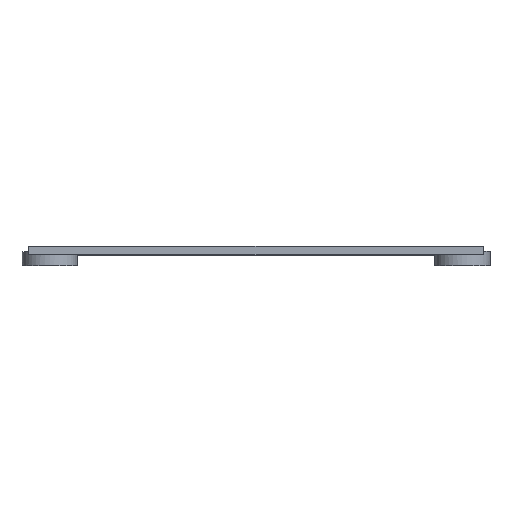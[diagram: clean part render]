
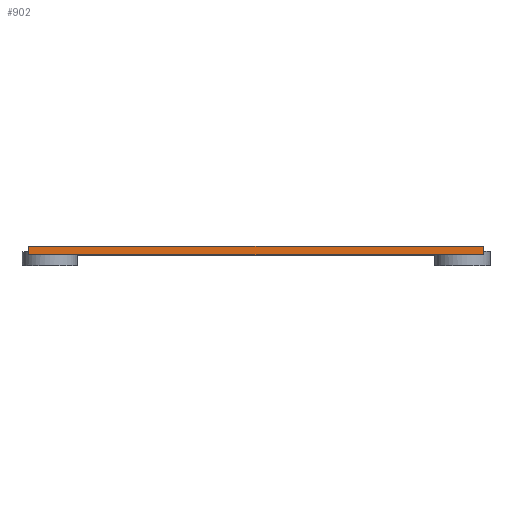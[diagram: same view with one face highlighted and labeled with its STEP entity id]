
A CAD part, top view. The second image highlights one B-rep face of the part: STEP entity #902.
In plain terms, the highlighted planar face has unit normal (0, 0, 1).
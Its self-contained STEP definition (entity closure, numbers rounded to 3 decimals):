
#32 = PLANE('',#33);
#33 = AXIS2_PLACEMENT_3D('',#34,#35,#36);
#34 = CARTESIAN_POINT('',(-66.,78.,592.));
#35 = DIRECTION('',(1.,0.,-0.));
#36 = DIRECTION('',(0.,0.,1.));
#44 = PLANE('',#45);
#45 = AXIS2_PLACEMENT_3D('',#46,#47,#48);
#46 = CARTESIAN_POINT('',(-66.,78.,592.));
#47 = DIRECTION('',(-0.,1.,0.));
#48 = DIRECTION('',(0.,0.,1.));
#85 = VERTEX_POINT('',#86);
#86 = CARTESIAN_POINT('',(-66.,80.5,678.));
#99 = PLANE('',#100);
#100 = AXIS2_PLACEMENT_3D('',#101,#102,#103);
#101 = CARTESIAN_POINT('',(-400.,80.5,0.));
#102 = DIRECTION('',(-0.,1.,0.));
#103 = DIRECTION('',(0.,0.,1.));
#111 = EDGE_CURVE('',#112,#85,#114,.T.);
#112 = VERTEX_POINT('',#113);
#113 = CARTESIAN_POINT('',(-66.,78.,678.));
#114 = SURFACE_CURVE('',#115,(#119,#126),.PCURVE_S1.);
#115 = LINE('',#116,#117);
#116 = CARTESIAN_POINT('',(-66.,78.,678.));
#117 = VECTOR('',#118,1.);
#118 = DIRECTION('',(-0.,1.,0.));
#119 = PCURVE('',#32,#120);
#120 = DEFINITIONAL_REPRESENTATION('',(#121),#125);
#121 = LINE('',#122,#123);
#122 = CARTESIAN_POINT('',(86.,0.));
#123 = VECTOR('',#124,1.);
#124 = DIRECTION('',(0.,-1.));
#125 = ( GEOMETRIC_REPRESENTATION_CONTEXT(2) 
PARAMETRIC_REPRESENTATION_CONTEXT() REPRESENTATION_CONTEXT('2D SPACE',''
  ) );
#126 = PCURVE('',#127,#132);
#127 = PLANE('',#128);
#128 = AXIS2_PLACEMENT_3D('',#129,#130,#131);
#129 = CARTESIAN_POINT('',(-66.,78.,678.));
#130 = DIRECTION('',(0.,0.,1.));
#131 = DIRECTION('',(1.,0.,-0.));
#132 = DEFINITIONAL_REPRESENTATION('',(#133),#137);
#133 = LINE('',#134,#135);
#134 = CARTESIAN_POINT('',(0.,0.));
#135 = VECTOR('',#136,1.);
#136 = DIRECTION('',(0.,1.));
#137 = ( GEOMETRIC_REPRESENTATION_CONTEXT(2) 
PARAMETRIC_REPRESENTATION_CONTEXT() REPRESENTATION_CONTEXT('2D SPACE',''
  ) );
#332 = EDGE_CURVE('',#112,#333,#335,.T.);
#333 = VERTEX_POINT('',#334);
#334 = CARTESIAN_POINT('',(66.,78.,678.));
#335 = SURFACE_CURVE('',#336,(#340,#347),.PCURVE_S1.);
#336 = LINE('',#337,#338);
#337 = CARTESIAN_POINT('',(-66.,78.,678.));
#338 = VECTOR('',#339,1.);
#339 = DIRECTION('',(1.,0.,-0.));
#340 = PCURVE('',#44,#341);
#341 = DEFINITIONAL_REPRESENTATION('',(#342),#346);
#342 = LINE('',#343,#344);
#343 = CARTESIAN_POINT('',(86.,0.));
#344 = VECTOR('',#345,1.);
#345 = DIRECTION('',(0.,1.));
#346 = ( GEOMETRIC_REPRESENTATION_CONTEXT(2) 
PARAMETRIC_REPRESENTATION_CONTEXT() REPRESENTATION_CONTEXT('2D SPACE',''
  ) );
#347 = PCURVE('',#127,#348);
#348 = DEFINITIONAL_REPRESENTATION('',(#349),#353);
#349 = LINE('',#350,#351);
#350 = CARTESIAN_POINT('',(0.,0.));
#351 = VECTOR('',#352,1.);
#352 = DIRECTION('',(1.,0.));
#353 = ( GEOMETRIC_REPRESENTATION_CONTEXT(2) 
PARAMETRIC_REPRESENTATION_CONTEXT() REPRESENTATION_CONTEXT('2D SPACE',''
  ) );
#371 = PLANE('',#372);
#372 = AXIS2_PLACEMENT_3D('',#373,#374,#375);
#373 = CARTESIAN_POINT('',(66.,78.,592.));
#374 = DIRECTION('',(1.,0.,-0.));
#375 = DIRECTION('',(0.,0.,1.));
#902 = ADVANCED_FACE('',(#903),#127,.T.);
#903 = FACE_BOUND('',#904,.T.);
#904 = EDGE_LOOP('',(#905,#927,#928,#929));
#905 = ORIENTED_EDGE('',*,*,#906,.T.);
#906 = EDGE_CURVE('',#907,#85,#909,.T.);
#907 = VERTEX_POINT('',#908);
#908 = CARTESIAN_POINT('',(66.,80.5,678.));
#909 = SURFACE_CURVE('',#910,(#914,#920),.PCURVE_S1.);
#910 = LINE('',#911,#912);
#911 = CARTESIAN_POINT('',(-233.,80.5,678.));
#912 = VECTOR('',#913,1.);
#913 = DIRECTION('',(-1.,-0.,0.));
#914 = PCURVE('',#127,#915);
#915 = DEFINITIONAL_REPRESENTATION('',(#916),#919);
#916 = B_SPLINE_CURVE_WITH_KNOTS('',1,(#917,#918),.UNSPECIFIED.,.F.,.F.,
  (2,2),(-299.,-167.),.PIECEWISE_BEZIER_KNOTS.);
#917 = CARTESIAN_POINT('',(132.,2.5));
#918 = CARTESIAN_POINT('',(0.,2.5));
#919 = ( GEOMETRIC_REPRESENTATION_CONTEXT(2) 
PARAMETRIC_REPRESENTATION_CONTEXT() REPRESENTATION_CONTEXT('2D SPACE',''
  ) );
#920 = PCURVE('',#99,#921);
#921 = DEFINITIONAL_REPRESENTATION('',(#922),#926);
#922 = LINE('',#923,#924);
#923 = CARTESIAN_POINT('',(678.,167.));
#924 = VECTOR('',#925,1.);
#925 = DIRECTION('',(0.,-1.));
#926 = ( GEOMETRIC_REPRESENTATION_CONTEXT(2) 
PARAMETRIC_REPRESENTATION_CONTEXT() REPRESENTATION_CONTEXT('2D SPACE',''
  ) );
#927 = ORIENTED_EDGE('',*,*,#111,.F.);
#928 = ORIENTED_EDGE('',*,*,#332,.T.);
#929 = ORIENTED_EDGE('',*,*,#930,.T.);
#930 = EDGE_CURVE('',#333,#907,#931,.T.);
#931 = SURFACE_CURVE('',#932,(#936,#943),.PCURVE_S1.);
#932 = LINE('',#933,#934);
#933 = CARTESIAN_POINT('',(66.,78.,678.));
#934 = VECTOR('',#935,1.);
#935 = DIRECTION('',(-0.,1.,0.));
#936 = PCURVE('',#127,#937);
#937 = DEFINITIONAL_REPRESENTATION('',(#938),#942);
#938 = LINE('',#939,#940);
#939 = CARTESIAN_POINT('',(132.,0.));
#940 = VECTOR('',#941,1.);
#941 = DIRECTION('',(0.,1.));
#942 = ( GEOMETRIC_REPRESENTATION_CONTEXT(2) 
PARAMETRIC_REPRESENTATION_CONTEXT() REPRESENTATION_CONTEXT('2D SPACE',''
  ) );
#943 = PCURVE('',#371,#944);
#944 = DEFINITIONAL_REPRESENTATION('',(#945),#949);
#945 = LINE('',#946,#947);
#946 = CARTESIAN_POINT('',(86.,0.));
#947 = VECTOR('',#948,1.);
#948 = DIRECTION('',(0.,-1.));
#949 = ( GEOMETRIC_REPRESENTATION_CONTEXT(2) 
PARAMETRIC_REPRESENTATION_CONTEXT() REPRESENTATION_CONTEXT('2D SPACE',''
  ) );
